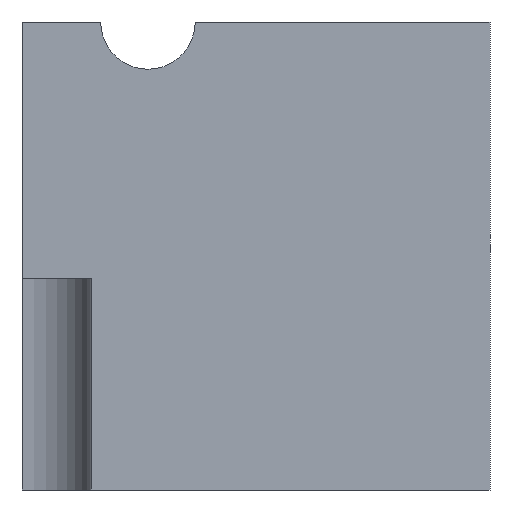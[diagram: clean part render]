
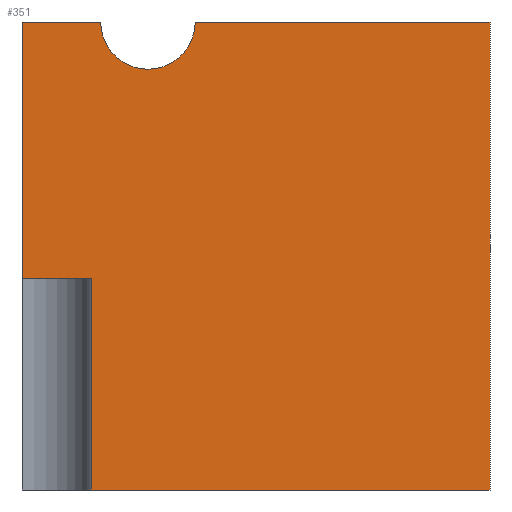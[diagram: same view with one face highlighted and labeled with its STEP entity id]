
A CAD part, front view. The second image highlights one B-rep face of the part: STEP entity #351.
In plain terms, the highlighted planar face has unit normal (0, -1, 0).
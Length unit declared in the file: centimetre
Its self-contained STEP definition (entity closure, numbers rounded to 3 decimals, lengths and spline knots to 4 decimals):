
#19 = CARTESIAN_POINT ( 'NONE',  ( 370.1474, 0., 1000. ) ) ;
#21 = CARTESIAN_POINT ( 'NONE',  ( 148.3966, 0., 0. ) ) ;
#27 = EDGE_CURVE ( 'NONE', #513, #117, #425, .T. ) ;
#29 = DIRECTION ( 'NONE',  ( 1., 0., 0. ) ) ;
#36 = LINE ( 'NONE', #159, #75 ) ;
#45 = EDGE_CURVE ( 'NONE', #448, #567, #572, .T. ) ;
#74 = CARTESIAN_POINT ( 'NONE',  ( 1000., 0., 0. ) ) ;
#75 = VECTOR ( 'NONE', #500, 100. ) ;
#76 = CARTESIAN_POINT ( 'NONE',  ( 0., 0., 0. ) ) ;
#78 = DIRECTION ( 'NONE',  ( 0., -1., 0. ) ) ;
#82 = CARTESIAN_POINT ( 'NONE',  ( 1000., 0., 1000. ) ) ;
#110 = ORIENTED_EDGE ( 'NONE', *, *, #420, .T. ) ;
#113 = VERTEX_POINT ( 'NONE', #74 ) ;
#117 = VERTEX_POINT ( 'NONE', #414 ) ;
#131 = LINE ( 'NONE', #76, #499 ) ;
#145 = DIRECTION ( 'NONE',  ( 0., 0., -1. ) ) ;
#159 = CARTESIAN_POINT ( 'NONE',  ( 0., 0., 451.9114 ) ) ;
#161 = AXIS2_PLACEMENT_3D ( 'NONE', #181, #239, #357 ) ;
#171 = ORIENTED_EDGE ( 'NONE', *, *, #481, .F. ) ;
#174 = ORIENTED_EDGE ( 'NONE', *, *, #183, .F. ) ;
#181 = CARTESIAN_POINT ( 'NONE',  ( 269.1578, 0., 1000. ) ) ;
#183 = EDGE_CURVE ( 'NONE', #117, #448, #682, .T. ) ;
#217 = CARTESIAN_POINT ( 'NONE',  ( 0., 0., 1000. ) ) ;
#233 = VERTEX_POINT ( 'NONE', #736 ) ;
#239 = DIRECTION ( 'NONE',  ( 0., -1., 0. ) ) ;
#240 = EDGE_CURVE ( 'NONE', #233, #336, #377, .T. ) ;
#330 = LINE ( 'NONE', #384, #565 ) ;
#336 = VERTEX_POINT ( 'NONE', #21 ) ;
#350 = VECTOR ( 'NONE', #29, 100. ) ;
#351 = ADVANCED_FACE ( 'NONE', ( #608 ), #483, .F. ) ;
#353 = EDGE_CURVE ( 'NONE', #567, #394, #538, .T. ) ;
#357 = DIRECTION ( 'NONE',  ( 0., 0., -1. ) ) ;
#359 = DIRECTION ( 'NONE',  ( 1., 0., 0. ) ) ;
#377 = LINE ( 'NONE', #440, #582 ) ;
#384 = CARTESIAN_POINT ( 'NONE',  ( 1000., 0., 1000. ) ) ;
#388 = LINE ( 'NONE', #655, #404 ) ;
#394 = VERTEX_POINT ( 'NONE', #82 ) ;
#403 = ORIENTED_EDGE ( 'NONE', *, *, #470, .T. ) ;
#404 = VECTOR ( 'NONE', #554, 100. ) ;
#414 = CARTESIAN_POINT ( 'NONE',  ( 168.1681, 0., 1000. ) ) ;
#419 = CARTESIAN_POINT ( 'NONE',  ( 269.1578, 0., 1000. ) ) ;
#420 = EDGE_CURVE ( 'NONE', #336, #113, #131, .T. ) ;
#422 = CARTESIAN_POINT ( 'NONE',  ( 0., 0., 1000. ) ) ;
#425 = LINE ( 'NONE', #715, #460 ) ;
#438 = DIRECTION ( 'NONE',  ( 0., 1., 0. ) ) ;
#440 = CARTESIAN_POINT ( 'NONE',  ( 148.3966, 0., 451.9114 ) ) ;
#448 = VERTEX_POINT ( 'NONE', #472 ) ;
#458 = ORIENTED_EDGE ( 'NONE', *, *, #45, .F. ) ;
#460 = VECTOR ( 'NONE', #521, 100. ) ;
#470 = EDGE_CURVE ( 'NONE', #513, #517, #388, .T. ) ;
#472 = CARTESIAN_POINT ( 'NONE',  ( 269.1578, 0., 899.0104 ) ) ;
#481 = EDGE_CURVE ( 'NONE', #233, #517, #36, .T. ) ;
#483 = PLANE ( 'NONE',  #641 ) ;
#499 = VECTOR ( 'NONE', #359, 100. ) ;
#500 = DIRECTION ( 'NONE',  ( -1., 0., 0. ) ) ;
#508 = EDGE_CURVE ( 'NONE', #394, #113, #330, .T. ) ;
#513 = VERTEX_POINT ( 'NONE', #217 ) ;
#514 = EDGE_LOOP ( 'NONE', ( #171, #516, #110, #563, #718, #458, #174, #651, #403 ) ) ;
#516 = ORIENTED_EDGE ( 'NONE', *, *, #240, .T. ) ;
#517 = VERTEX_POINT ( 'NONE', #679 ) ;
#521 = DIRECTION ( 'NONE',  ( 1., 0., 0. ) ) ;
#538 = LINE ( 'NONE', #422, #350 ) ;
#554 = DIRECTION ( 'NONE',  ( 0., 0., -1. ) ) ;
#563 = ORIENTED_EDGE ( 'NONE', *, *, #508, .F. ) ;
#565 = VECTOR ( 'NONE', #674, 100. ) ;
#567 = VERTEX_POINT ( 'NONE', #19 ) ;
#572 = CIRCLE ( 'NONE', #161, 100.9896 ) ;
#582 = VECTOR ( 'NONE', #145, 100. ) ;
#603 = DIRECTION ( 'NONE',  ( 0., 0., 1. ) ) ;
#608 = FACE_OUTER_BOUND ( 'NONE', #514, .T. ) ;
#641 = AXIS2_PLACEMENT_3D ( 'NONE', #717, #438, #603 ) ;
#651 = ORIENTED_EDGE ( 'NONE', *, *, #27, .F. ) ;
#652 = DIRECTION ( 'NONE',  ( 0., 0., -1. ) ) ;
#655 = CARTESIAN_POINT ( 'NONE',  ( 0., 0., 1000. ) ) ;
#674 = DIRECTION ( 'NONE',  ( 0., 0., -1. ) ) ;
#679 = CARTESIAN_POINT ( 'NONE',  ( 0., 0., 451.9114 ) ) ;
#682 = CIRCLE ( 'NONE', #693, 100.9896 ) ;
#693 = AXIS2_PLACEMENT_3D ( 'NONE', #419, #78, #652 ) ;
#715 = CARTESIAN_POINT ( 'NONE',  ( 0., 0., 1000. ) ) ;
#717 = CARTESIAN_POINT ( 'NONE',  ( 0., 0., 1000. ) ) ;
#718 = ORIENTED_EDGE ( 'NONE', *, *, #353, .F. ) ;
#736 = CARTESIAN_POINT ( 'NONE',  ( 148.3966, 0., 451.9114 ) ) ;
